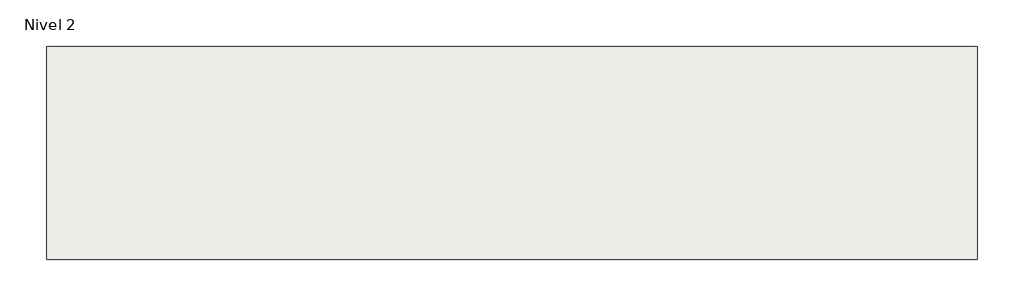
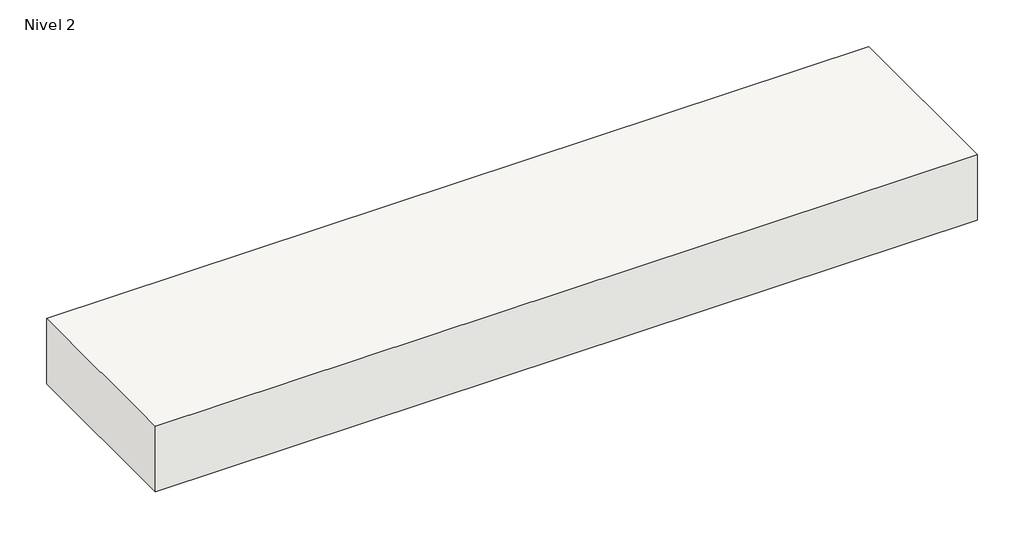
# One storey: 1 roof.
"""IFC4 building model written with IfcOpenShell, lengths in millimetres."""

from ifc_helpers import new_model, si_unit, frame, origin, place, context, project, spatial, polyline, outline, extrude, element, save

model = new_model("IFC4")

# Units and contexts
model_context = context("Model", 3, world=origin())
ifc_project = project(units=[si_unit("LENGTHUNIT", "METRE", prefix="MILLI")], contexts=[model_context])

# Site, building, storey
site = spatial("IfcSite", under=ifc_project)
building = spatial("IfcBuilding", under=site)
storey = spatial("IfcBuildingStorey", under=building, Name="Nivel 2", Elevation=3000.0)

# Roof
placement = place(None, origin())
element("IfcRoof", 1, ObjectType="Panel Thermochip ROOF PLANA - COAT cubierta plana (2400x550) 2", at=placement, inside=storey, context=model_context, shape_type="SweptSolid", body=[
    extrude(outline(polyline([(-1629.5459371, -2660.8029824), (770.4540629, -2660.8029824), (770.4540629, -3210.8029824), (-1629.5459371, -3210.8029824), (-1629.5459371, -2660.8029824)])), frame((0.0, 0.0, 3000.0), z_axis=(0.0, 0.0, 1.0), x_axis=(1.0, 0.0, 0.0)), (0.0, 0.0, 1.0), 202.5),
])

save(model, "model.ifc")
